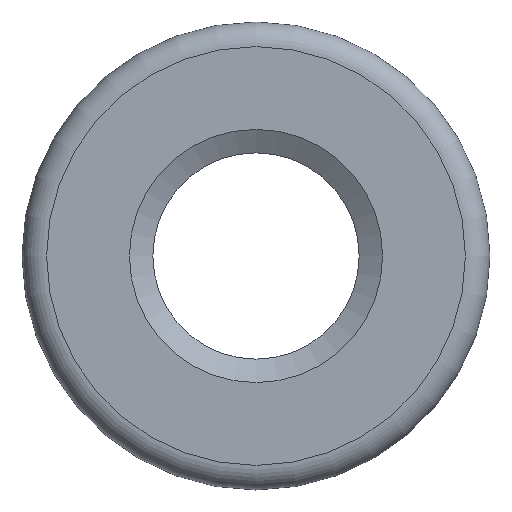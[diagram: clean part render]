
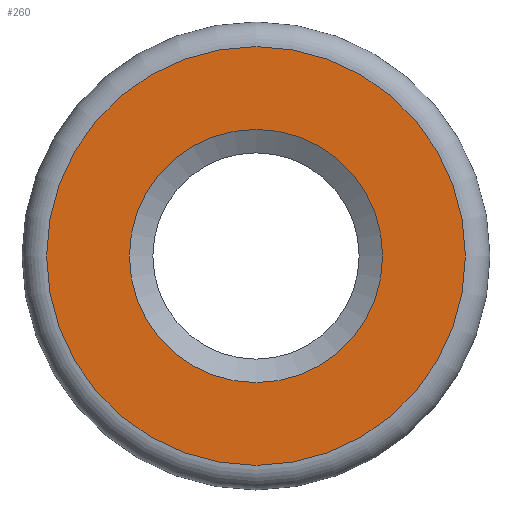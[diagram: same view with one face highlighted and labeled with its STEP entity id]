
A CAD part, front view. The second image highlights one B-rep face of the part: STEP entity #260.
In plain terms, the highlighted planar face has unit normal (0, -1, 0).
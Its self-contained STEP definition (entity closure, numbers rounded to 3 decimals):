
#44=PLANE($,#285);
#55=FACE_BOUND($,#84,.T.);
#62=FACE_OUTER_BOUND($,#83,.T.);
#83=EDGE_LOOP($,(#181));
#84=EDGE_LOOP($,(#182));
#106=CIRCLE($,#282,5.141);
#108=CIRCLE($,#286,8.5);
#118=VERTEX_POINT($,#385);
#120=VERTEX_POINT($,#391);
#142=EDGE_CURVE($,#118,#118,#106,.T.);
#144=EDGE_CURVE($,#120,#120,#108,.T.);
#181=ORIENTED_EDGE($,*,*,#144,.F.);
#182=ORIENTED_EDGE($,*,*,#142,.F.);
#260=ADVANCED_FACE($,(#62,#55),#44,.F.);
#282=AXIS2_PLACEMENT_3D($,#386,#317,#318);
#285=AXIS2_PLACEMENT_3D($,#390,#323,#324);
#286=AXIS2_PLACEMENT_3D($,#392,#325,#326);
#317=DIRECTION('center_axis',(0.,-1.,0.));
#318=DIRECTION('ref_axis',(1.,0.,0.));
#323=DIRECTION('center_axis',(0.,1.,0.));
#324=DIRECTION('ref_axis',(0.,0.,1.));
#325=DIRECTION('center_axis',(0.,1.,0.));
#326=DIRECTION('ref_axis',(1.,0.,0.));
#385=CARTESIAN_POINT('',(-5.141,0.,0.));
#386=CARTESIAN_POINT('Origin',(0.,0.,0.));
#390=CARTESIAN_POINT('Origin',(0.,0.,0.));
#391=CARTESIAN_POINT('',(-8.5,0.,0.));
#392=CARTESIAN_POINT('Origin',(0.,0.,0.));
